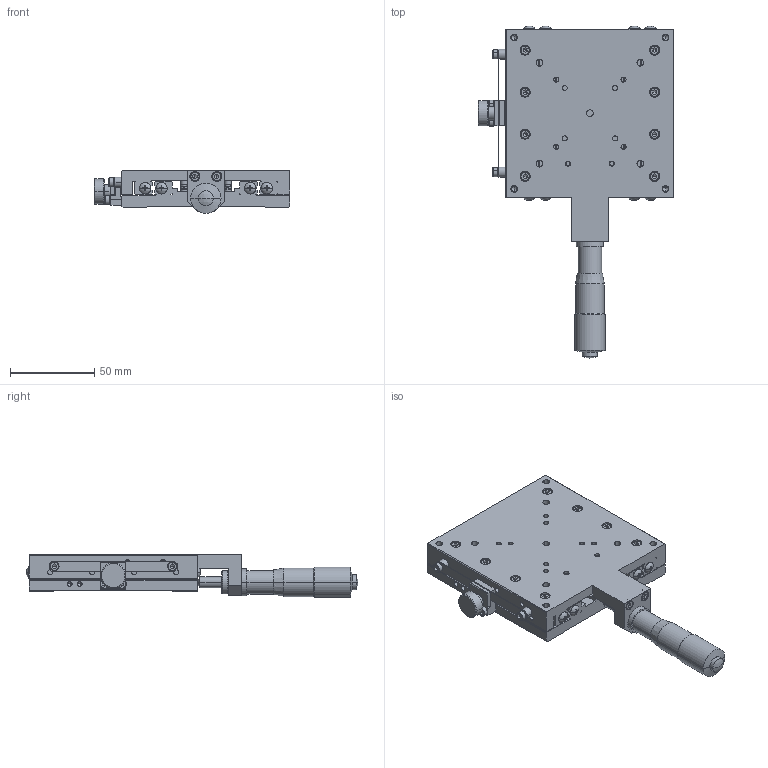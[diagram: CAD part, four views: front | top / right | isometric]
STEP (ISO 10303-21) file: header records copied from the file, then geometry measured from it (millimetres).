
FILE_DESCRIPTION (( 'STEP AP214' ), '1' );
FILE_NAME ('XM10A-C1Z-R.STEP', '2009-05-11T06:49:14', ( ' ' ), ( ' ' ), 'SwSTEP 2.0', 'SolidWorks 2008', '' );
FILE_SCHEMA (( 'AUTOMOTIVE_DESIGN' ));
Length unit declared in the file: millimetre
Products named in the file (5): 001130-1022(3D)-Part-1-2; 001130-1022(3D)-2; 001130-1022(3D)-Part-2-2; 001130-1011(3D)-2; XM10A-C1Z-R
Assembly tree (4 placements, depth 3):
  XM10A-C1Z-R
    001130-1022(3D)-2
      001130-1022(3D)-Part-1-2
      001130-1022(3D)-Part-2-2
    001130-1011(3D)-2
Bounding box: 116.5 x 197.37 x 25.5 mm (x, y, z)
Volume: 206374.9 mm3; surface area: 82056.1 mm2
Topology: 3 solids, 51 shells, 1705 faces, 3965 edges, 2367 vertices
Faces by surface type: plane 765, cylinder 540, cone 364, sphere 20, torus 16
Entity records: 48021 total; most frequent: DIRECTION 8970, CARTESIAN_POINT 8191, ORIENTED_EDGE 7722, EDGE_CURVE 3861, AXIS2_PLACEMENT_3D 3446, VERTEX_POINT 2367, LINE 2078, VECTOR 2078
